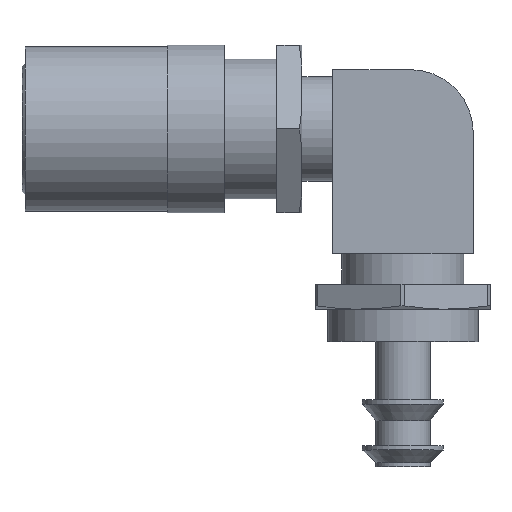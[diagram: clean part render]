
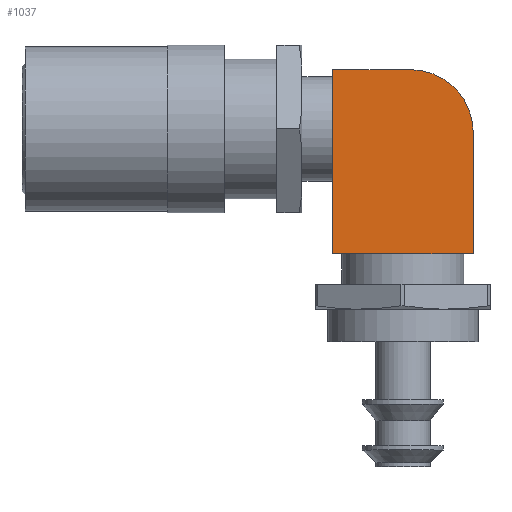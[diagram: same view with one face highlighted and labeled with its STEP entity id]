
A CAD part, top view. The second image highlights one B-rep face of the part: STEP entity #1037.
In plain terms, the highlighted planar face has unit normal (0, 0, 1).
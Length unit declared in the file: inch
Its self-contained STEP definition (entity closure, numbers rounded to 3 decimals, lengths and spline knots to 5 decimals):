
#32=PLANE('',#1158);
#106=LINE('',#1834,#162);
#110=LINE('',#1842,#166);
#113=LINE('',#1850,#169);
#116=LINE('',#1856,#172);
#162=VECTOR('',#1381,39.37008);
#166=VECTOR('',#1387,39.37008);
#169=VECTOR('',#1394,39.37008);
#172=VECTOR('',#1399,39.37008);
#217=CIRCLE('',#1157,0.45);
#383=ORIENTED_EDGE('',*,*,#605,.T.);
#384=ORIENTED_EDGE('',*,*,#609,.T.);
#385=ORIENTED_EDGE('',*,*,#613,.T.);
#386=ORIENTED_EDGE('',*,*,#616,.T.);
#387=ORIENTED_EDGE('',*,*,#618,.T.);
#605=EDGE_CURVE('',#722,#721,#106,.T.);
#609=EDGE_CURVE('',#721,#724,#110,.T.);
#613=EDGE_CURVE('',#724,#727,#113,.T.);
#616=EDGE_CURVE('',#727,#729,#116,.T.);
#618=EDGE_CURVE('',#729,#722,#217,.T.);
#721=VERTEX_POINT('',#1833);
#722=VERTEX_POINT('',#1835);
#724=VERTEX_POINT('',#1841);
#727=VERTEX_POINT('',#1849);
#729=VERTEX_POINT('',#1855);
#819=EDGE_LOOP('',(#383,#384,#385,#386,#387));
#925=FACE_BOUND('',#819,.T.);
#1037=ADVANCED_FACE('',(#925),#32,.T.);
#1157=AXIS2_PLACEMENT_3D('',#1859,#1404,#1405);
#1158=AXIS2_PLACEMENT_3D('',#1860,#1406,#1407);
#1381=DIRECTION('',(-1.,0.,0.));
#1387=DIRECTION('',(0.,-1.,0.));
#1394=DIRECTION('',(1.,0.,0.));
#1399=DIRECTION('',(0.,1.,0.));
#1404=DIRECTION('',(0.,0.,1.));
#1405=DIRECTION('',(1.,0.,0.));
#1406=DIRECTION('',(0.,0.,1.));
#1407=DIRECTION('',(1.,0.,0.));
#1833=CARTESIAN_POINT('',(2.206,0.425,0.5));
#1834=CARTESIAN_POINT('',(2.766,0.425,0.5));
#1835=CARTESIAN_POINT('',(2.766,0.425,0.5));
#1841=CARTESIAN_POINT('',(2.206,-0.895,0.5));
#1842=CARTESIAN_POINT('',(2.206,0.425,0.5));
#1849=CARTESIAN_POINT('',(3.216,-0.895,0.5));
#1850=CARTESIAN_POINT('',(2.206,-0.895,0.5));
#1855=CARTESIAN_POINT('',(3.216,-0.025,0.5));
#1856=CARTESIAN_POINT('',(3.216,-0.895,0.5));
#1859=CARTESIAN_POINT('',(2.766,-0.025,0.5));
#1860=CARTESIAN_POINT('',(2.766,-0.025,0.5));
